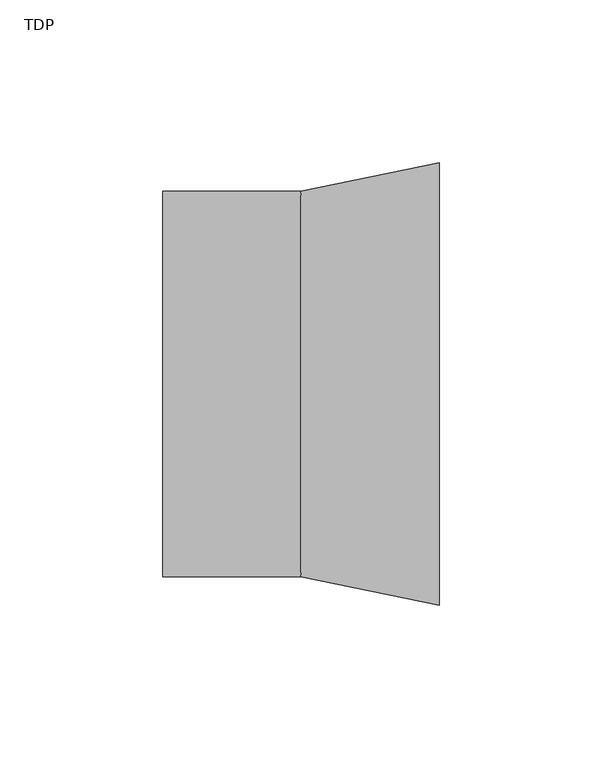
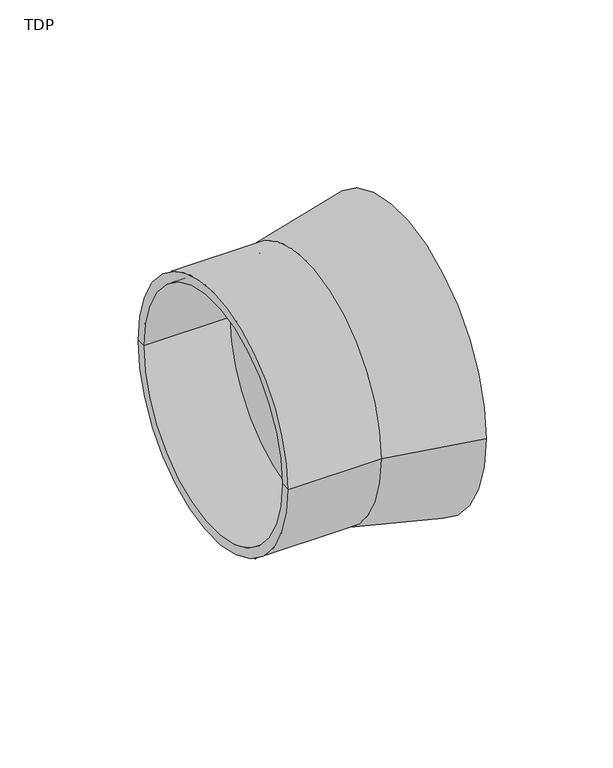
"""IFC4 building model written with IfcOpenShell, lengths in millimetres: cable carrier fitting geometry, PavcoWavin_ConduitFittings_TerminalCampana_Ducto : TDP."""

from ifc_helpers import new_model, si_unit, frame, origin, place, context, project, spatial, polyline, circle_curve, source, transform, mapped, element, save
from ifc_brep_helpers import plane_surface, cylinder_surface, revolved_surface, advanced_brep


def tdp_ba480966(model_context):
    return source(origin(), model_context, "Body", "AdvancedBrep", [
        advanced_brep(
        [(3.2, -54.8, 0.0), (3.2, 54.8, 0.0), (3.2, 0.0, 0.0), (42.5, -63.4, 0.0), (42.5, 63.4, 0.0), (42.5, -68.0, 0.0), (42.5, 68.0, 0.0), (0.0, -59.2, 0.0), (0.0, 59.2, 0.0), (-42.5, -59.2, 0.0), (-42.5, 59.2, 0.0), (-42.5, -54.8, 0.0), (-42.5, 54.8, 0.0), (-3.2, -54.8, 0.0), (-3.2, 54.8, 0.0), (-3.2, 0.0, 0.0)],
        [
            (0, 1, circle_curve(frame((3.2, 0.0, 0.0), z_axis=(1.0, 0.0, 0.0), x_axis=(0.0, 1.0, 0.0)), 54.8)),
            (1, 2),
            (2, 0),
            (1, 0, circle_curve(frame((3.2, 0.0, 0.0), z_axis=(1.0, 0.0, 0.0), x_axis=(0.0, 1.0, 0.0)), 54.8)),
            (3, 4, circle_curve(frame((42.5, 0.0, 0.0), z_axis=(1.0, 0.0, 0.0), x_axis=(0.0, 1.0, 0.0)), 63.4)),
            (4, 1),
            (0, 3),
            (4, 3, circle_curve(frame((42.5, 0.0, 0.0), z_axis=(1.0, 0.0, 0.0), x_axis=(0.0, 1.0, 0.0)), 63.4)),
            (5, 6, circle_curve(frame((42.5, 0.0, 0.0), z_axis=(1.0, 0.0, 0.0), x_axis=(0.0, 1.0, 0.0)), 68.0)),
            (6, 4),
            (3, 5),
            (6, 5, circle_curve(frame((42.5, 0.0, 0.0), z_axis=(1.0, 0.0, 0.0), x_axis=(0.0, 1.0, 0.0)), 68.0)),
            (7, 8, circle_curve(frame((0.0, 0.0, 0.0), z_axis=(1.0, 0.0, 0.0), x_axis=(0.0, 1.0, 0.0)), 59.2)),
            (8, 6),
            (5, 7),
            (8, 7, circle_curve(frame((0.0, 0.0, 0.0), z_axis=(1.0, 0.0, 0.0), x_axis=(0.0, 1.0, 0.0)), 59.2)),
            (9, 10, circle_curve(frame((-42.5, 0.0, 0.0), z_axis=(1.0, 0.0, 0.0), x_axis=(0.0, 1.0, 0.0)), 59.2)),
            (10, 8),
            (7, 9),
            (10, 9, circle_curve(frame((-42.5, 0.0, 0.0), z_axis=(1.0, 0.0, 0.0), x_axis=(0.0, 1.0, 0.0)), 59.2)),
            (11, 12, circle_curve(frame((-42.5, 0.0, 0.0), z_axis=(1.0, 0.0, 0.0), x_axis=(0.0, 1.0, 0.0)), 54.8)),
            (12, 10),
            (9, 11),
            (12, 11, circle_curve(frame((-42.5, 0.0, 0.0), z_axis=(1.0, 0.0, 0.0), x_axis=(0.0, 1.0, 0.0)), 54.8)),
            (13, 14, circle_curve(frame((-3.2, 0.0, 0.0), z_axis=(1.0, 0.0, 0.0), x_axis=(0.0, 1.0, 0.0)), 54.8)),
            (14, 12),
            (11, 13),
            (14, 13, circle_curve(frame((-3.2, 0.0, 0.0), z_axis=(1.0, 0.0, 0.0), x_axis=(0.0, 1.0, 0.0)), 54.8)),
            (15, 14),
            (13, 15),
        ],
        [
            plane_surface(frame((3.2, 0.0, 0.0), z_axis=(1.0, 0.0, 0.0), x_axis=(0.0, 1.0, 0.0))),
            revolved_surface(polyline([(3.2, 54.8, 0.0), (42.5, 63.4, 0.0)]), (2033.1194919, 0.0, 0.0), (-1.0, 0.0, 0.0)),
            plane_surface(frame((42.5, 0.0, 0.0), z_axis=(1.0, 0.0, 0.0), x_axis=(0.0, 1.0, 0.0))),
            revolved_surface(polyline([(42.5, 68.0, 0.0), (0.0, 59.2, 0.0)]), (2033.1194919, 0.0, 0.0), (-1.0, 0.0, 0.0)),
            cylinder_surface(frame((2033.1194919, 0.0, 0.0), z_axis=(-1.0, 0.0, 0.0), x_axis=(0.0, 1.0, 0.0)), 59.2),
            plane_surface(frame((-42.5, 0.0, 0.0), z_axis=(-1.0, 0.0, 0.0), x_axis=(0.0, 1.0, 0.0))),
            revolved_surface(polyline([(-42.5, 54.8, 0.0), (-3.2000000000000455, 54.8, 0.0)]), (2033.1194919, 0.0, 0.0), (-1.0, 0.0, 0.0)),
            plane_surface(frame((-3.2, 0.0, 0.0), z_axis=(-1.0, 0.0, 0.0), x_axis=(0.0, 1.0, 0.0))),
        ],
        [
            (0, [[1, 2, 3]]),
            (0, [[4, -3, -2]]),
            (1, [[5, 6, -1, 7]]),
            (1, [[8, -7, -4, -6]]),
            (2, [[9, 10, -5, 11]]),
            (2, [[12, -11, -8, -10]]),
            (3, [[13, 14, -9, 15]]),
            (3, [[16, -15, -12, -14]]),
            (4, [[17, 18, -13, 19]]),
            (4, [[20, -19, -16, -18]]),
            (5, [[21, 22, -17, 23]]),
            (5, [[24, -23, -20, -22]]),
            (6, [[25, 26, -21, 27]]),
            (6, [[28, -27, -24, -26]]),
            (7, [[29, -25, 30]]),
            (7, [[-30, -28, -29]]),
        ],
    ),
    ])


if __name__ == "__main__":
    model = new_model("IFC4")
    model_context = context("Model", 3, world=origin())
    ifc_project = project(units=[si_unit("LENGTHUNIT", "METRE", prefix="MILLI")], contexts=[model_context])
    site = spatial("IfcSite", under=ifc_project)
    building = spatial("IfcBuilding", under=site)
    placement = place(None, origin())
    tdp_shape = tdp_ba480966(model_context)
    element("IfcCableCarrierFitting", 1, ObjectType="PavcoWavin_ConduitFittings_TerminalCampana_Ducto : TDP", at=placement, inside=building, context=model_context, shape_type="MappedRepresentation", body=[
        mapped(tdp_shape, transform((0.0, 0.0, 0.0), x_axis=(1.0, 0.0, 0.0), y_axis=(0.0, 1.0, 0.0), z_axis=(0.0, 0.0, 1.0))),
    ])
    save(model, "model.ifc")
